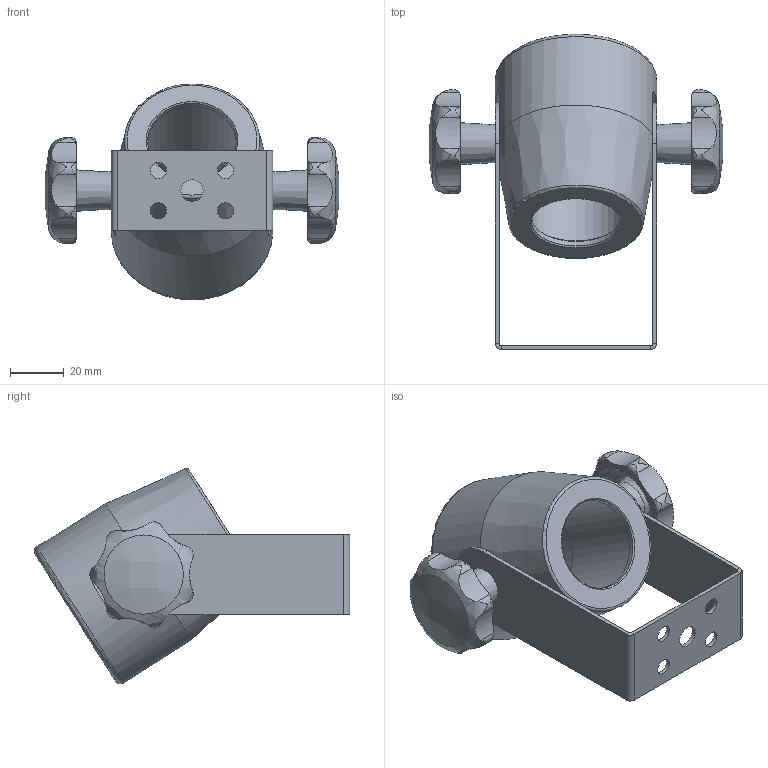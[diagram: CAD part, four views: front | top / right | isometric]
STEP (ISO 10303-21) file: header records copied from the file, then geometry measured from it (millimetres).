
FILE_DESCRIPTION (( 'STEP AP214' ), '1' );
FILE_NAME ('Supporto pistola Kolver 010175.STEP', '2025-01-10T13:58:43', ( '' ), ( '' ), 'SwSTEP 2.0', 'SolidWorks 2024', '' );
FILE_SCHEMA (( 'AUTOMOTIVE_DESIGN' ));
Length unit declared in the file: millimetre
Products named in the file (1): Supporto pistola Kolver 010175
Bounding box: 109.18 x 117.13 x 80.2 mm (x, y, z)
Surface area: 44461.2 mm2 (no closed solid volume)
Topology: 0 solids, 4 shells, 100 faces, 265 edges, 173 vertices
Faces by surface type: cylinder 45, plane 22, bspline 22, cone 8, torus 3
Full cylindrical faces by diameter (mm): 6.1 x4, 8.2 x1, 33 x1, 36.5 x1, 45.5 x1, 60 x1
Entity records: 6401 total; most frequent: CARTESIAN_POINT 3219, ORIENTED_EDGE 436, DIRECTION 358, EDGE_CURVE 223, VERTEX_POINT 157, AXIS2_PLACEMENT_3D 146, EDGE_LOOP 146, FACE_OUTER_BOUND 118
